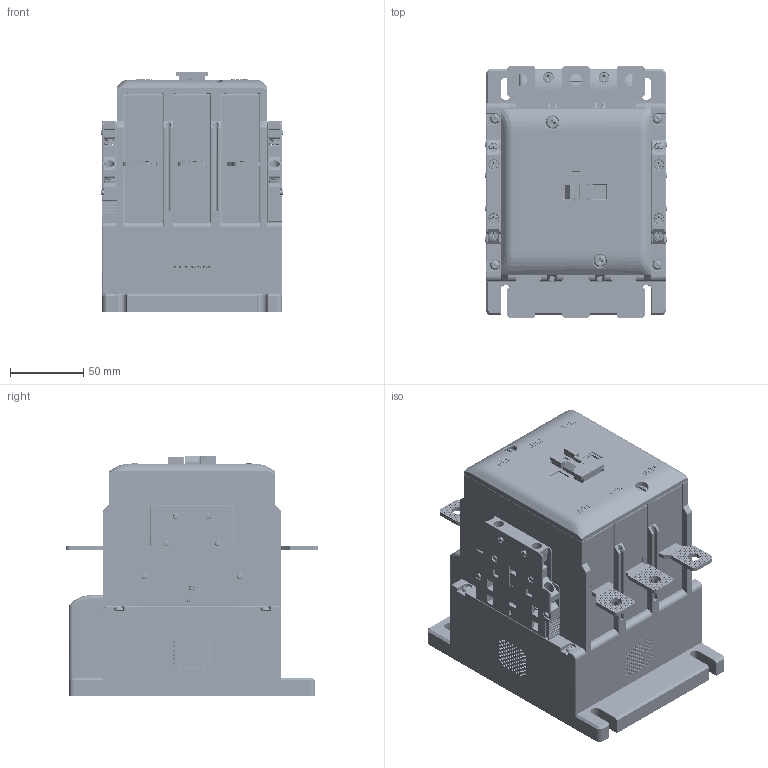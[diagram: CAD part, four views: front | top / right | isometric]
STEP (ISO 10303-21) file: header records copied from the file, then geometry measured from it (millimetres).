
FILE_DESCRIPTION((''),'2;1');
FILE_NAME('CJX2S-120-22500_ASM','2023-12-11T13:10:09',('Administrator'),(''),'CREO PARAMETRIC BY PTC INC, 2020033','CREO PARAMETRIC BY PTC INC, 2020033','');
FILE_SCHEMA(('CONFIG_CONTROL_DESIGN'));
Products named in the file (115): CJX2S-12000; CJX2S-120-000; CJX2S-120-_AF0; CJX2S-120-_AF1; CJX2S-120-_AF2; CJX2S-120-_AF3; CJX2S-120-_AF4; CJX2S-120-_AF5; CJX2S-12000_ASM; CJX2S-1200006; CJX2S-1200004_ASM; CJX2S-1200007; M4X140002; 4000; M4X140001_ASM; CJX2S-1200009; CJX2S-120001; CJX2S-1200008_ASM; CJX2S-120PCBA000; CJX2S-120-630000; CJX2S-1200011_ASM; CJX2S-1200014; M3X200002; 3000; M3X200001_ASM; M300; CJX2S-1200012_ASM; ST2_9X80001; CJX2S-1200015; CJX2S-1200; M3_5X9_50002; 7_5X2_600; M3_5X9_50001_ASM; CJX2S-120000_ASM; CJX2S-120_AF0; CJX2S-120_AF1; CJX2S-120_AF2; CJX2S-120_AF3; CJX2S-1200019; CJX2S-120002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
Assembly tree (319 placements, depth 5):
  CJX2S-120-22500_ASM
    CJX2S-12000
    CJX2S-120000_ASM
      CJX2S-12000
      CJX2S-1200004_ASM
        CJX2S-12000_ASM
          CJX2S-120-000  x50
          CJX2S-120-_AF0
          CJX2S-120-_AF1
          CJX2S-120-_AF2
          CJX2S-120-_AF3
          CJX2S-120-_AF4
          CJX2S-120-_AF5
        CJX2S-1200006  x2
      CJX2S-1200007
      M4X140001_ASM  x2
        M4X140002
        4000
        4000
      CJX2S-1200008_ASM
        CJX2S-1200009
        CJX2S-120001  x3
      CJX2S-1200011_ASM
        CJX2S-120PCBA000
        CJX2S-120-630000
      CJX2S-1200012_ASM
        CJX2S-120001
        CJX2S-1200014
        M3X200001_ASM  x2
          M3X200002
          3000
          3000
        M300  x2
      ST2_9X80001  x2
      CJX2S-1200015  x2
      CJX2S-1200
      M3_5X9_50001_ASM  x2
        M3_5X9_50002
        7_5X2_600
    CJX2S-120_AF0
    CJX2S-120_AF1
    CJX2S-120_AF2
    CJX2S-120_AF3
    CJX2S-12000
    CJX2S-1200018_ASM
      CJX2S-1200019
      CJX2S-12000  x2
      CJX2S-120002
      CJX2S-120_AF0
      CJX2S-120_AF1
      CJX2S-120_AF2
      CJX2S-120_AF3
      CJX2S-1200022  x3
      CJX2S-120002_ASM  x3
        CJX2S-120002
        CJX2S-120002
      CJX2S-120_A  x3
      CJX2S-120_AF0  x3
      CJX2S-12000_ASM
        CJX2S-120-_AF  x44
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Bounding box: 124.4 x 172.7 x 163.7 mm (x, y, z)
Volume: 926504.7 mm3; surface area: 1172111 mm2
Topology: 353 solids, 377 shells, 42016 faces, 112384 edges, 74487 vertices
Faces by surface type: plane 31380, cylinder 8412, bspline 1060, torus 730, cone 270, sphere 164
Entity records: 660647 total; most frequent: CARTESIAN_POINT 183879, ORIENTED_EDGE 100108, DIRECTION 94525, EDGE_CURVE 50072, VECTOR 39115, LINE 39115, VERTEX_POINT 32913, AXIS2_PLACEMENT_3D 27705
